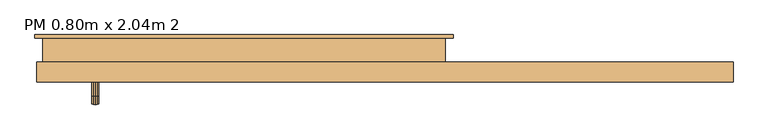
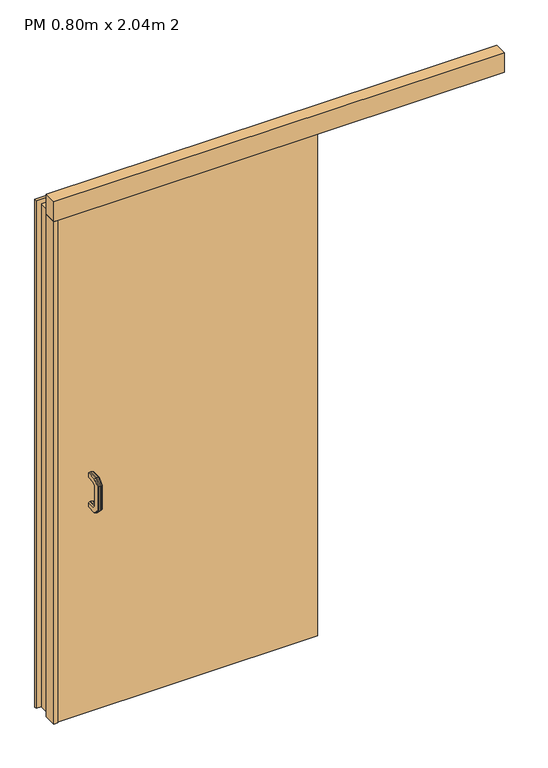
"""IFC4 building model written with IfcOpenShell, lengths in millimetres: door geometry, PM 0.80m x 2.04m 2."""

import ifcopenshell
import ifcopenshell.guid

model = None  # the IFC model being written
_history = None  # IfcOwnerHistory: only IFC2X3 demands one
_inside = {}  # id of a spatial element -> (the spatial element, [elements in it])
_under = {}  # id of a project, library or spatial element -> (it, [spatial elements below it])
_declared = {}  # id of a project -> (the project, [libraries it declares])
_typed = {}  # id of a type object -> (the type object, [elements of that type])
_made_of = {}  # id of a material, layer set ... -> (it, [elements and type objects made of it])


def new_model(schema):
    """Start an empty IFC model of exactly this schema.

    Asked for "IFC4X3", IfcOpenShell would pick the latest addendum, in which some entities
    have other attributes; the version numbers below select the first issue.
    IFC2X3 requires an IfcOwnerHistory on every rooted entity: one is made here for all.
    """
    global model, _history
    if schema == "IFC4X3":
        model = ifcopenshell.file(schema_version=(4, 3, 0, 0))
    else:
        model = ifcopenshell.file(schema=schema)
    _inside.clear()
    _under.clear()
    _declared.clear()
    _typed.clear()
    _made_of.clear()
    _history = None
    if model.schema == "IFC2X3":
        org = make("IfcOrganization", Name="unknown")
        user = make(
            "IfcPersonAndOrganization",
            ThePerson=make("IfcPerson", FamilyName="unknown"),
            TheOrganization=org,
        )
        app = make(
            "IfcApplication",
            ApplicationDeveloper=org,
            Version="unknown",
            ApplicationFullName="unknown",
            ApplicationIdentifier="unknown",
        )
        _history = make(
            "IfcOwnerHistory",
            OwningUser=user,
            OwningApplication=app,
            ChangeAction="ADDED",
            CreationDate=0,
        )
    return model


def make(cls, **values):
    """One entity of the class cls with the attributes given. An attribute that is None is left unset."""
    return model.create_entity(
        cls, **{name: value for name, value in values.items() if value is not None}
    )


def rooted(cls, **values):
    """An entity with a GlobalId (a new one), such as an element, a storey or a relation."""
    return make(cls, GlobalId=ifcopenshell.guid.new(), OwnerHistory=_history, **values)


def si_unit(unit_type, name, prefix=None):
    """IfcSIUnit, for example si_unit("LENGTHUNIT", "METRE", prefix="MILLI")."""
    return make("IfcSIUnit", UnitType=unit_type, Prefix=prefix, Name=name)


def assignment(units):
    """IfcUnitAssignment: the units of a project."""
    return None if units is None else make("IfcUnitAssignment", Units=units)


def point(xyz):
    """IfcCartesianPoint."""
    return None if xyz is None else make("IfcCartesianPoint", Coordinates=xyz)


def direction(xyz):
    """IfcDirection."""
    return None if xyz is None else make("IfcDirection", DirectionRatios=xyz)


def frame(location, z_axis=None, x_axis=None):
    """IfcAxis2Placement3D, a coordinate frame: its origin and axes. An axis left out is left unset."""
    return make(
        "IfcAxis2Placement3D",
        Location=point(location),
        Axis=direction(z_axis),
        RefDirection=direction(x_axis),
    )


def origin():
    """The frame at (0, 0, 0) with its axes left unset."""
    return frame((0.0, 0.0, 0.0))


def origin_with_axes():
    """The frame at (0, 0, 0) with the z axis (0, 0, 1) and the x axis (1, 0, 0) written out."""
    return frame((0.0, 0.0, 0.0), z_axis=(0.0, 0.0, 1.0), x_axis=(1.0, 0.0, 0.0))


def place(relative_to, where):
    """IfcLocalPlacement: puts the frame where relative to a parent placement (None: the world)."""
    return make(
        "IfcLocalPlacement", PlacementRelTo=relative_to, RelativePlacement=where
    )


def context(
    kind, dimensions, precision=None, world=None, true_north=None, identifier=None
):
    """IfcGeometricRepresentationContext, for example the 3D "Model" context."""
    return make(
        "IfcGeometricRepresentationContext",
        ContextIdentifier=identifier,
        ContextType=kind,
        CoordinateSpaceDimension=dimensions,
        Precision=precision,
        WorldCoordinateSystem=world,
        TrueNorth=true_north,
    )


def project(units=None, contexts=None):
    """IfcProject with its units and contexts."""
    return rooted(
        "IfcProject",
        Name="project",
        RepresentationContexts=contexts,
        UnitsInContext=assignment(units),
    )


def spatial(cls, under=None, at=None, **own):
    """A site, building, storey or space (cls), placed at a placement, below another one or the project."""
    s = rooted(cls, ObjectPlacement=at, **own)
    if under is not None:
        _under.setdefault(under.id(), (under, []))[1].append(s)
    return s


def polyline(points):
    """IfcPolyline through the points."""
    return make("IfcPolyline", Points=[point(p) for p in points])


def outline(outer, holes=None, kind="AREA"):
    """IfcArbitraryClosedProfileDef: a profile drawn as a closed curve; with holes, ...WithVoids."""
    if holes is None:
        return make("IfcArbitraryClosedProfileDef", ProfileType=kind, OuterCurve=outer)
    return make(
        "IfcArbitraryProfileDefWithVoids",
        ProfileType=kind,
        OuterCurve=outer,
        InnerCurves=holes,
    )


def extrude(swept, where, along, depth):
    """IfcExtrudedAreaSolid: the profile swept, set in the frame where, extruded along a direction by depth."""
    return make(
        "IfcExtrudedAreaSolid",
        SweptArea=swept,
        Position=where,
        ExtrudedDirection=direction(along),
        Depth=depth,
    )


def faces_of(points, faces, orient=None, outer=None):
    """IfcFace entities. A face is a list of loops; a loop is a list of indices into points, from 0.

    orient and outer hold one flag for each loop. By default every Orientation is true, the
    first loop of a face is its IfcFaceOuterBound and the others are IfcFaceBound.
    """
    made = []
    for i, loops in enumerate(faces):
        bounds = []
        for j, loop in enumerate(loops):
            is_outer = j == 0 if outer is None else outer[i][j]
            bounds.append(
                make(
                    "IfcFaceOuterBound" if is_outer else "IfcFaceBound",
                    Bound=make("IfcPolyLoop", Polygon=[points[k] for k in loop]),
                    Orientation=True if orient is None else orient[i][j],
                )
            )
        made.append(make("IfcFace", Bounds=bounds))
    return made


def faceted_brep(points, faces, orient=None, outer=None, voids=None):
    """IfcFacetedBrep: a solid bounded by flat faces; with voids (closed shells), ...WithVoids."""
    shared = [point(p) for p in points]
    hull = make("IfcClosedShell", CfsFaces=faces_of(shared, faces, orient, outer))
    if voids is None:
        return make("IfcFacetedBrep", Outer=hull)
    return make(
        "IfcFacetedBrepWithVoids",
        Outer=hull,
        Voids=[
            make(cls, CfsFaces=faces_of(shared, fs, o, b)) for cls, fs, o, b in voids
        ],
    )


def shape(context_of_items, identifier, shape_type, items):
    """IfcShapeRepresentation: the items that make up one representation, for example the "Body"."""
    return make(
        "IfcShapeRepresentation",
        ContextOfItems=context_of_items,
        RepresentationIdentifier=identifier,
        RepresentationType=shape_type,
        Items=items,
    )


def source(mapping_origin, context_of_items, identifier, shape_type, items):
    """IfcRepresentationMap: a shape defined once, which mapped items show again and again."""
    return make(
        "IfcRepresentationMap",
        MappingOrigin=mapping_origin,
        MappedRepresentation=shape(context_of_items, identifier, shape_type, items),
    )


def transform(
    local_origin,
    x_axis=None,
    y_axis=None,
    z_axis=None,
    scale=None,
    scale2=None,
    scale3=None,
    uniform=True,
):
    """IfcCartesianTransformationOperator3D, or its non-uniform kind. x_axis, y_axis, z_axis: its Axis1, 2, 3."""
    if uniform:
        return make(
            "IfcCartesianTransformationOperator3D",
            Axis1=direction(x_axis),
            Axis2=direction(y_axis),
            LocalOrigin=point(local_origin),
            Scale=scale,
            Axis3=direction(z_axis),
        )
    return make(
        "IfcCartesianTransformationOperator3DnonUniform",
        Axis1=direction(x_axis),
        Axis2=direction(y_axis),
        LocalOrigin=point(local_origin),
        Scale=scale,
        Axis3=direction(z_axis),
        Scale2=scale2,
        Scale3=scale3,
    )


def mapped(mapping_source, mapping_target):
    """IfcMappedItem: shows the shape of a source again, moved by a transform."""
    return make(
        "IfcMappedItem", MappingSource=mapping_source, MappingTarget=mapping_target
    )


def made_of(thing, what):
    """Note that an element or type object is made of a material, layer set ...; save() writes the relation."""
    if what is not None:
        _made_of.setdefault(what.id(), (what, []))[1].append(thing)
    return thing


def element(
    cls,
    number,
    at=None,
    inside=None,
    cuts=None,
    type_object=None,
    material=None,
    context=None,
    identifier="Body",
    shape_type=None,
    held_by="IfcProductDefinitionShape",
    body=None,
    shapes=None,
    **own,
):
    """One element of the class cls, such as IfcWall. Its Tag is "e" and its number.

    at: its placement. inside: the storey or other place that contains it. cuts: it is an
    opening in that element (IfcRelVoidsElement). A single representation is given by context,
    identifier, shape_type and body (its items); several are given by shapes. held_by: the class
    of the entity that holds the representations. save() writes the other relations.
    """
    e = rooted(cls, Tag="e%d" % number, ObjectPlacement=at, **own)
    if body is not None:
        shapes = [shape(context, identifier, shape_type, body)]
    if shapes is not None:
        e.Representation = make(held_by, Representations=shapes)
    if inside is not None:
        _inside.setdefault(inside.id(), (inside, []))[1].append(e)
    if cuts is not None:
        rooted(
            "IfcRelVoidsElement", RelatingBuildingElement=cuts, RelatedOpeningElement=e
        )
    if type_object is not None:
        _typed.setdefault(type_object.id(), (type_object, []))[1].append(e)
    return made_of(e, material)


def aggregate(whole, parts):
    """IfcRelAggregates: a whole, such as a stair, and the parts it consists of."""
    return rooted("IfcRelAggregates", RelatingObject=whole, RelatedObjects=parts)


def save(model, path):
    """Write the relations noted so far, then the file.

    IfcRelAggregates (storeys below a building ...), IfcRelContainedInSpatialStructure (elements
    in a storey), IfcRelDefinesByType, IfcRelAssociatesMaterial and IfcRelDeclares: one each for
    every whole, place, type object, material and project.
    """
    for whole, parts in _under.values():
        aggregate(whole, parts)
    for where, things in _inside.values():
        rooted(
            "IfcRelContainedInSpatialStructure",
            RelatedElements=things,
            RelatingStructure=where,
        )
    for kind, things in _typed.values():
        rooted("IfcRelDefinesByType", RelatedObjects=things, RelatingType=kind)
    for what, things in _made_of.values():
        rooted("IfcRelAssociatesMaterial", RelatedObjects=things, RelatingMaterial=what)
    for by, libraries in _declared.values():
        rooted("IfcRelDeclares", RelatingContext=by, RelatedDefinitions=libraries)
    model.write(path)


def pm_0_80m_x_2_04m_2_2620696a(model_context):
    return source(origin(), model_context, "Body", "SolidModel", [
        extrude(outline(polyline([(-8.3931538, -50.0), (-8.3931538, 0.0), (1721.6068462, 0.0), (1721.6068462, -50.0), (-8.3931538, -50.0)])), frame((0.0, 0.0, 2040.0), z_axis=(0.0, 0.0, 1.0), x_axis=(1.0, 0.0, 0.0)), (0.0, 0.0, 1.0), 80.0),
        faceted_brep([(136.6068462, -45.0, 971.2559855), (141.2460668, -45.0, 970.6833976), (145.6068462, -45.0, 969.0), (145.6068462, -45.0, 951.0), (141.2460668, -45.0, 949.3166024), (136.6068462, -45.0, 948.7440145), (131.9676256, -45.0, 949.3166024), (127.6068462, -45.0, 951.0), (127.6068462, -45.0, 969.0), (131.9676256, -45.0, 970.6833976), (136.6068462, -45.0, 828.7440145), (131.9676256, -45.0, 829.3166024), (127.6068462, -45.0, 831.0), (127.6068462, -45.0, 849.0), (131.9676256, -45.0, 850.6833976), (136.6068462, -45.0, 851.2559855), (141.2460668, -45.0, 850.6833976), (145.6068462, -45.0, 849.0), (145.6068462, -45.0, 831.0), (141.2460668, -45.0, 829.3166024), (127.6068462, -83.7279221, 969.0), (131.9676256, -84.4252082, 970.6833976), (136.6068462, -84.6623818, 971.2559855), (141.2460668, -84.4252082, 970.6833976), (145.6068462, -83.7279221, 969.0), (145.6068462, -104.0, 948.7279221), (145.6068462, -104.0, 851.2720779), (145.6068462, -83.7279221, 831.0), (145.6068462, -76.2720779, 849.0), (145.6068462, -86.0, 858.7279221), (145.6068462, -86.0, 941.2720779), (145.6068462, -76.2720779, 951.0), (141.2460668, -75.5747918, 949.3166024), (136.6068462, -75.3376182, 948.7440145), (131.9676256, -75.5747918, 949.3166024), (127.6068462, -76.2720779, 951.0), (127.6068462, -83.7279221, 831.0), (127.6068462, -104.0, 851.2720779), (127.6068462, -104.0, 948.7279221), (127.6068462, -86.0, 941.2720779), (127.6068462, -86.0, 858.7279221), (127.6068462, -76.2720779, 849.0), (131.9676256, -105.6833976, 949.4252082), (136.6068462, -106.2559855, 949.6623818), (141.2460668, -105.6833976, 949.4252082), (141.2460668, -84.3166024, 940.5747918), (136.6068462, -83.7440145, 940.3376182), (131.9676256, -84.3166024, 940.5747918), (131.9676256, -105.6833976, 850.5747918), (136.6068462, -106.2559855, 850.3376182), (141.2460668, -105.6833976, 850.5747918), (141.2460668, -84.3166024, 859.4252082), (136.6068462, -83.7440145, 859.6623818), (131.9676256, -84.3166024, 859.4252082), (131.9676256, -84.4252082, 829.3166024), (136.6068462, -84.6623818, 828.7440145), (141.2460668, -84.4252082, 829.3166024), (141.2460668, -75.5747918, 850.6833976), (136.6068462, -75.3376182, 851.2559855), (131.9676256, -75.5747918, 850.6833976)], [[[0, 1, 2, 3, 4, 5, 6, 7, 8, 9]], [[10, 11, 12, 13, 14, 15, 16, 17, 18, 19]], [[20, 21, 9, 8]], [[9, 21, 22, 0]], [[23, 1, 0, 22]], [[1, 23, 24, 2]], [[2, 24, 25, 26, 27, 18, 17, 28, 29, 30, 31, 3]], [[31, 32, 4, 3]], [[5, 4, 32, 33]], [[34, 35, 7, 6]], [[34, 6, 5, 33]], [[12, 36, 37, 38, 20, 8, 7, 35, 39, 40, 41, 13]], [[38, 42, 21, 20]], [[21, 42, 43, 22]], [[43, 44, 23, 22]], [[44, 25, 24, 23]], [[30, 45, 32, 31]], [[32, 45, 46, 33]], [[47, 39, 35, 34]], [[34, 33, 46, 47]], [[37, 48, 42, 38]], [[42, 48, 49, 43]], [[49, 50, 44, 43]], [[50, 26, 25, 44]], [[29, 51, 45, 30]], [[46, 45, 51, 52]], [[53, 40, 39, 47]], [[53, 47, 46, 52]], [[36, 54, 48, 37]], [[48, 54, 55, 49]], [[55, 56, 50, 49]], [[56, 27, 26, 50]], [[28, 57, 51, 29]], [[51, 57, 58, 52]], [[59, 41, 40, 53]], [[53, 52, 58, 59]], [[12, 11, 54, 36]], [[55, 54, 11, 10]], [[19, 18, 27, 56]], [[19, 56, 55, 10]], [[17, 16, 57, 28]], [[58, 57, 16, 15]], [[14, 13, 41, 59]], [[59, 58, 15, 14]]]),
        extrude(outline(polyline([(-8.3931538, -50.0), (-8.3931538, 0.0), (6.6068462, 0.0), (6.6068462, -50.0), (-8.3931538, -50.0)])), origin_with_axes(), (0.0, 0.0, 1.0), 2040.0),
        faceted_brep([(1006.6068462, 60.0, 0.0), (1006.6068462, 0.0, 0.0), (991.6068462, 0.0, 0.0), (991.6068462, 68.0, 0.0), (1026.6068462, 68.0, 0.0), (1026.6068462, 60.0, 0.0), (1026.6068462, 60.0, 2060.0), (-13.3931538, 60.0, 2060.0), (-13.3931538, 60.0, 0.0), (6.6068462, 60.0, 0.0), (6.6068462, 60.0, 2040.0), (1006.6068462, 60.0, 2040.0), (1026.6068462, 68.0, 2060.0), (991.6068462, 68.0, 2025.0), (21.6068462, 68.0, 2025.0), (21.6068462, 68.0, 0.0), (-13.3931538, 68.0, 0.0), (-13.3931538, 68.0, 2060.0), (991.6068462, 0.0, 2025.0), (1006.6068462, 0.0, 2040.0), (6.6068462, 0.0, 2040.0), (6.6068462, 0.0, 0.0), (21.6068462, 0.0, 0.0), (21.6068462, 0.0, 2025.0)], [[[0, 1, 2, 3, 4, 5]], [[5, 6, 7, 8, 9, 10, 11, 0]], [[4, 12, 6, 5]], [[3, 13, 14, 15, 16, 17, 12, 4]], [[2, 18, 13, 3]], [[1, 19, 20, 21, 22, 23, 18, 2]], [[0, 11, 19, 1]], [[12, 17, 7, 6]], [[18, 23, 14, 13]], [[11, 10, 20, 19]], [[9, 8, 16, 15, 22, 21]], [[17, 16, 8, 7]], [[23, 22, 15, 14]], [[10, 9, 21, 20]]]),
        faceted_brep([(131.9676256, -5.0, 970.6833976), (127.6068462, -5.0, 969.0), (127.6068462, -5.0, 951.0), (131.9676256, -5.0, 949.3166024), (136.6068462, -5.0, 948.7440145), (141.2460668, -5.0, 949.3166024), (145.6068462, -5.0, 951.0), (145.6068462, -5.0, 969.0), (141.2460668, -5.0, 970.6833976), (136.6068462, -5.0, 971.2559855), (131.9676256, -5.0, 829.3166024), (136.6068462, -5.0, 828.7440145), (141.2460668, -5.0, 829.3166024), (145.6068462, -5.0, 831.0), (145.6068462, -5.0, 849.0), (141.2460668, -5.0, 850.6833976), (136.6068462, -5.0, 851.2559855), (131.9676256, -5.0, 850.6833976), (127.6068462, -5.0, 849.0), (127.6068462, -5.0, 831.0), (145.6068462, 33.7279221, 831.0), (145.6068462, 54.0, 851.2720779), (145.6068462, 54.0, 948.7279221), (145.6068462, 33.7279221, 969.0), (145.6068462, 26.2720779, 951.0), (145.6068462, 36.0, 941.2720779), (145.6068462, 36.0, 858.7279221), (145.6068462, 26.2720779, 849.0), (141.2460668, 34.4252082, 970.6833976), (136.6068462, 34.6623818, 971.2559855), (131.9676256, 34.4252082, 970.6833976), (127.6068462, 33.7279221, 969.0), (127.6068462, 54.0, 948.7279221), (127.6068462, 54.0, 851.2720779), (127.6068462, 33.7279221, 831.0), (127.6068462, 26.2720779, 849.0), (127.6068462, 36.0, 858.7279221), (127.6068462, 36.0, 941.2720779), (127.6068462, 26.2720779, 951.0), (131.9676256, 25.5747918, 949.3166024), (136.6068462, 25.3376182, 948.7440145), (141.2460668, 25.5747918, 949.3166024), (141.2460668, 55.6833976, 949.4252082), (136.6068462, 56.2559855, 949.6623818), (131.9676256, 55.6833976, 949.4252082), (131.9676256, 34.3166024, 940.5747918), (136.6068462, 33.7440145, 940.3376182), (141.2460668, 34.3166024, 940.5747918), (141.2460668, 55.6833976, 850.5747918), (136.6068462, 56.2559855, 850.3376182), (131.9676256, 55.6833976, 850.5747918), (131.9676256, 34.3166024, 859.4252082), (136.6068462, 33.7440145, 859.6623818), (141.2460668, 34.3166024, 859.4252082), (141.2460668, 34.4252082, 829.3166024), (136.6068462, 34.6623818, 828.7440145), (131.9676256, 34.4252082, 829.3166024), (131.9676256, 25.5747918, 850.6833976), (136.6068462, 25.3376182, 851.2559855), (141.2460668, 25.5747918, 850.6833976)], [[[0, 1, 2, 3, 4, 5, 6, 7, 8, 9]], [[10, 11, 12, 13, 14, 15, 16, 17, 18, 19]], [[13, 20, 21, 22, 23, 7, 6, 24, 25, 26, 27, 14]], [[23, 28, 8, 7]], [[8, 28, 29, 9]], [[30, 0, 9, 29]], [[0, 30, 31, 1]], [[1, 31, 32, 33, 34, 19, 18, 35, 36, 37, 38, 2]], [[38, 39, 3, 2]], [[4, 3, 39, 40]], [[41, 24, 6, 5]], [[41, 5, 4, 40]], [[22, 42, 28, 23]], [[28, 42, 43, 29]], [[43, 44, 30, 29]], [[44, 32, 31, 30]], [[37, 45, 39, 38]], [[39, 45, 46, 40]], [[47, 25, 24, 41]], [[41, 40, 46, 47]], [[21, 48, 42, 22]], [[42, 48, 49, 43]], [[49, 50, 44, 43]], [[50, 33, 32, 44]], [[36, 51, 45, 37]], [[46, 45, 51, 52]], [[53, 26, 25, 47]], [[53, 47, 46, 52]], [[20, 54, 48, 21]], [[48, 54, 55, 49]], [[55, 56, 50, 49]], [[56, 34, 33, 50]], [[35, 57, 51, 36]], [[51, 57, 58, 52]], [[59, 27, 26, 53]], [[53, 52, 58, 59]], [[13, 12, 54, 20]], [[55, 54, 12, 11]], [[10, 19, 34, 56]], [[10, 56, 55, 11]], [[18, 17, 57, 35]], [[58, 57, 17, 16]], [[15, 14, 27, 59]], [[59, 58, 16, 15]]]),
        extrude(outline(polyline([(6.6068462, -45.0), (6.6068462, -5.0), (1006.6068462, -5.0), (1006.6068462, -45.0), (6.6068462, -45.0)])), origin_with_axes(), (0.0, 0.0, 1.0), 2040.0),
    ])


if __name__ == "__main__":
    model = new_model("IFC4")
    model_context = context("Model", 3, world=origin())
    ifc_project = project(units=[si_unit("LENGTHUNIT", "METRE", prefix="MILLI")], contexts=[model_context])
    site = spatial("IfcSite", under=ifc_project)
    building = spatial("IfcBuilding", under=site)
    placement = place(None, origin())
    pm_0_80m_x_2_04m_2_shape = pm_0_80m_x_2_04m_2_2620696a(model_context)
    element("IfcDoor", 1, ObjectType="PM 0.80m x 2.04m 2", at=placement, inside=building, context=model_context, shape_type="MappedRepresentation", body=[
        mapped(pm_0_80m_x_2_04m_2_shape, transform((0.0, 0.0, 0.0), x_axis=(1.0, 0.0, 0.0), y_axis=(0.0, 1.0, 0.0), z_axis=(0.0, 0.0, 1.0))),
    ])
    save(model, "model.ifc")
